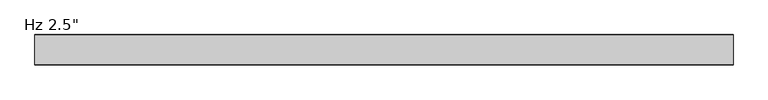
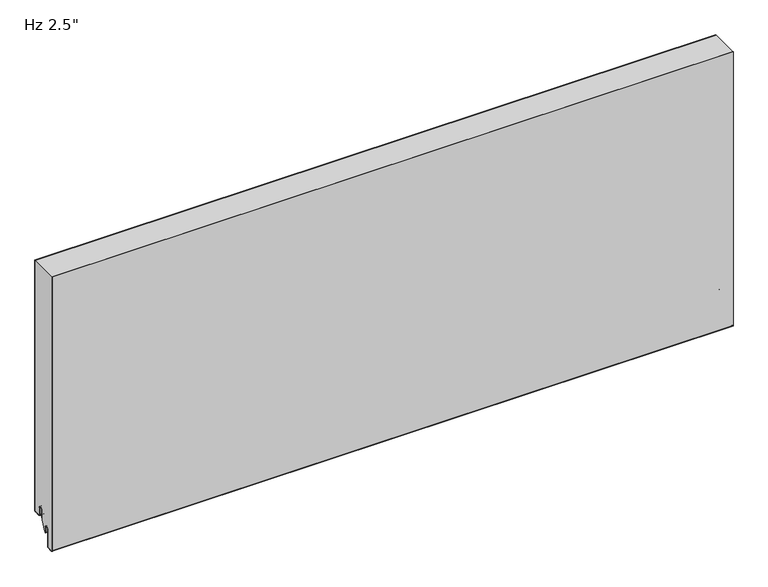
"""IFC4 building model written with IfcOpenShell, lengths in millimetres: plate geometry."""

from ifc_helpers import new_model, si_unit, point, frame, frame_2d, origin, place, context, project, spatial, polyline, circle_curve, trimmed, segment, composite_curve, outline, extrude, source, transform, mapped, element, save


def plate_a6819ea9(model_context):
    return source(origin(), model_context, "Body", "SweptSolid", [
        extrude(outline(composite_curve([segment(trimmed(circle_curve(frame_2d((-21.43125, 19.05)), 4.96875), [point((-16.4625, 19.05))], [point((-26.4, 19.05))], True, "CARTESIAN"), True, "CONTINUOUS"), segment(polyline([(-26.4, 19.05), (-26.4, -3.1323422), (-36.5326309, -23.01875), (-38.1, -23.01875), (-38.1, -13.5080174), (-38.89375, -13.5080174), (-38.6875, -11.9205174)]), True, "CONTINUOUS"), segment(trimmed(circle_curve(frame_2d((-43.65625, -11.9205174)), 4.96875), [point((-38.6875, -11.9205174))], [point((-48.625, -11.9205174))], True, "CARTESIAN"), True, "CONTINUOUS"), segment(polyline([(-48.625, -11.9205174), (-48.625, -50.1038221)]), True, "CONTINUOUS"), segment(trimmed(circle_curve(frame_2d((-50.00625, -50.1038221)), 1.38125), [point((-48.625, -50.1038221))], [point((-49.933961, -51.4831791))], False, "CARTESIAN"), True, "CONTINUOUS"), segment(polyline([(-49.933961, -51.4831791), (-61.046461, -52.0655606)]), True, "CONTINUOUS"), segment(trimmed(circle_curve(frame_2d((-61.11875, -50.6862035)), 1.38125), [point((-61.046461, -52.0655606))], [point((-62.5, -50.6862035))], False, "CARTESIAN"), True, "CONTINUOUS"), segment(polyline([(-62.5, -50.6862035), (-62.5, 570.0), (-1.0, 570.0), (-1.0, 3.175)]), True, "CONTINUOUS"), segment(trimmed(circle_curve(frame_2d((-2.38125, 3.175)), 1.38125), [point((-1.0, 3.175))], [point((-2.38125, 1.79375))], False, "CARTESIAN"), True, "CONTINUOUS"), segment(polyline([(-2.38125, 1.79375), (-15.08125, 1.79375)]), True, "CONTINUOUS"), segment(trimmed(circle_curve(frame_2d((-15.08125, 3.175)), 1.38125), [point((-15.08125, 1.79375))], [point((-16.4625, 3.175))], False, "CARTESIAN"), True, "CONTINUOUS"), segment(polyline([(-16.4625, 3.175), (-16.4625, 19.05)]), True, "CONTINUOUS")], self_intersect=False)), frame((-730.0, 0.0, 0.0), z_axis=(1.0, 0.0, 0.0), x_axis=(0.0, 1.0, 0.0)), (0.0, 0.0, 1.0), 1460.0),
        extrude(outline(composite_curve([segment(polyline([(-25.4, 0.79375), (-26.4, 0.79375), (-26.4, 19.05)]), True, "CONTINUOUS"), segment(trimmed(circle_curve(frame_2d((-21.43125, 19.05)), 4.96875), [point((-26.4, 19.05))], [point((-16.4625, 19.05))], False, "CARTESIAN"), True, "CONTINUOUS"), segment(polyline([(-16.4625, 19.05), (-16.4625, 3.175)]), True, "CONTINUOUS"), segment(trimmed(circle_curve(frame_2d((-15.08125, 3.175)), 1.38125), [point((-16.4625, 3.175))], [point((-15.08125, 1.79375))], True, "CARTESIAN"), True, "CONTINUOUS"), segment(polyline([(-15.08125, 1.79375), (-2.38125, 1.79375)]), True, "CONTINUOUS"), segment(trimmed(circle_curve(frame_2d((-2.38125, 3.175)), 1.38125), [point((-2.38125, 1.79375))], [point((-1.0, 3.175))], True, "CARTESIAN"), True, "CONTINUOUS"), segment(polyline([(-1.0, 3.175), (-1.0, 570.0), (0.0, 570.0), (0.0, 3.175)]), True, "CONTINUOUS"), segment(trimmed(circle_curve(frame_2d((-2.38125, 3.175)), 2.38125), [point((0.0, 3.175))], [point((-2.38125, 0.79375))], False, "CARTESIAN"), True, "CONTINUOUS"), segment(polyline([(-2.38125, 0.79375), (-15.08125, 0.79375)]), True, "CONTINUOUS"), segment(trimmed(circle_curve(frame_2d((-15.08125, 3.175)), 2.38125), [point((-15.08125, 0.79375))], [point((-17.4625, 3.175))], False, "CARTESIAN"), True, "CONTINUOUS"), segment(polyline([(-17.4625, 3.175), (-17.4625, 19.05)]), True, "CONTINUOUS"), segment(trimmed(circle_curve(frame_2d((-21.43125, 19.05)), 3.96875), [point((-17.4625, 19.05))], [point((-25.4, 19.05))], True, "CARTESIAN"), True, "CONTINUOUS"), segment(polyline([(-25.4, 19.05), (-25.4, 0.79375)]), True, "CONTINUOUS")], self_intersect=False)), frame((-730.0, 0.0, 0.0), z_axis=(1.0, 0.0, 0.0), x_axis=(0.0, 1.0, 0.0)), (0.0, 0.0, 1.0), 1460.0),
        extrude(outline(composite_curve([segment(trimmed(circle_curve(frame_2d((-38.89375, -23.2314549)), 0.79375), [point((-38.1, -23.2314549))], [point((-39.6875, -23.2314549))], False, "CARTESIAN"), True, "CONTINUOUS"), segment(polyline([(-39.6875, -23.2314549), (-39.6875, -11.9205174)]), True, "CONTINUOUS"), segment(trimmed(circle_curve(frame_2d((-43.65625, -11.9205174)), 3.96875), [point((-39.6875, -11.9205174))], [point((-47.625, -11.9205174))], True, "CARTESIAN"), True, "CONTINUOUS"), segment(polyline([(-47.625, -11.9205174), (-47.625, -50.1038221)]), True, "CONTINUOUS"), segment(trimmed(circle_curve(frame_2d((-50.00625, -50.1038221)), 2.38125), [point((-47.625, -50.1038221))], [point((-49.881625, -52.4818086))], False, "CARTESIAN"), True, "CONTINUOUS"), segment(polyline([(-49.881625, -52.4818086), (-60.994125, -53.0641901)]), True, "CONTINUOUS"), segment(trimmed(circle_curve(frame_2d((-61.11875, -50.6862035)), 2.38125), [point((-60.994125, -53.0641901))], [point((-63.5, -50.6862035))], False, "CARTESIAN"), True, "CONTINUOUS"), segment(polyline([(-63.5, -50.6862035), (-63.5, 570.0), (-62.5, 570.0), (-62.5, -50.6862035)]), True, "CONTINUOUS"), segment(trimmed(circle_curve(frame_2d((-61.11875, -50.6862035)), 1.38125), [point((-62.5, -50.6862035))], [point((-61.046461, -52.0655606))], True, "CARTESIAN"), True, "CONTINUOUS"), segment(polyline([(-61.046461, -52.0655606), (-49.933961, -51.4831791)]), True, "CONTINUOUS"), segment(trimmed(circle_curve(frame_2d((-50.00625, -50.1038221)), 1.38125), [point((-49.933961, -51.4831791))], [point((-48.625, -50.1038221))], True, "CARTESIAN"), True, "CONTINUOUS"), segment(polyline([(-48.625, -50.1038221), (-48.625, -11.9205174)]), True, "CONTINUOUS"), segment(trimmed(circle_curve(frame_2d((-43.65625, -11.9205174)), 4.96875), [point((-48.625, -11.9205174))], [point((-38.6875, -11.9205174))], False, "CARTESIAN"), True, "CONTINUOUS"), segment(polyline([(-38.6875, -11.9205174), (-38.89375, -13.5080174), (-38.1, -13.5080174), (-38.1, -23.2314549)]), True, "CONTINUOUS")], self_intersect=False)), frame((-730.0, 0.0, 0.0), z_axis=(1.0, 0.0, 0.0), x_axis=(0.0, 1.0, 0.0)), (0.0, 0.0, 1.0), 1460.0),
    ])


if __name__ == "__main__":
    model = new_model("IFC4")
    model_context = context("Model", 3, world=origin())
    ifc_project = project(units=[si_unit("LENGTHUNIT", "METRE", prefix="MILLI")], contexts=[model_context])
    site = spatial("IfcSite", under=ifc_project)
    building = spatial("IfcBuilding", under=site)
    placement = place(None, origin())
    plate_shape = plate_a6819ea9(model_context)
    element("IfcPlate", 1, ObjectType="KIP-36-DWTR-R19-CP-Hz-F : Hz 2.5\"", at=placement, inside=building, context=model_context, shape_type="MappedRepresentation", body=[
        mapped(plate_shape, transform((0.0, 0.0, 0.0), x_axis=(1.0, 0.0, 0.0), y_axis=(0.0, 1.0, 0.0), z_axis=(0.0, 0.0, 1.0))),
    ])
    save(model, "model.ifc")
